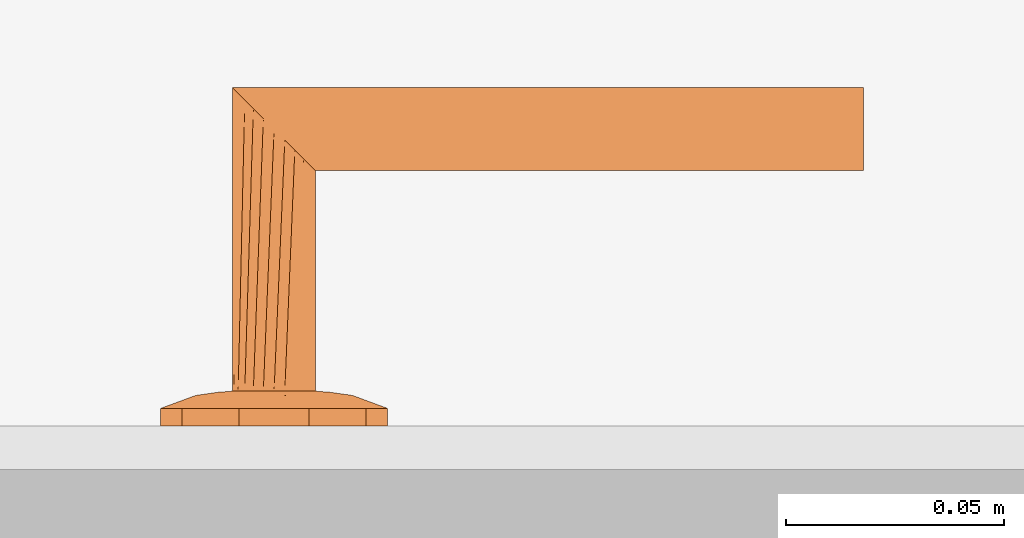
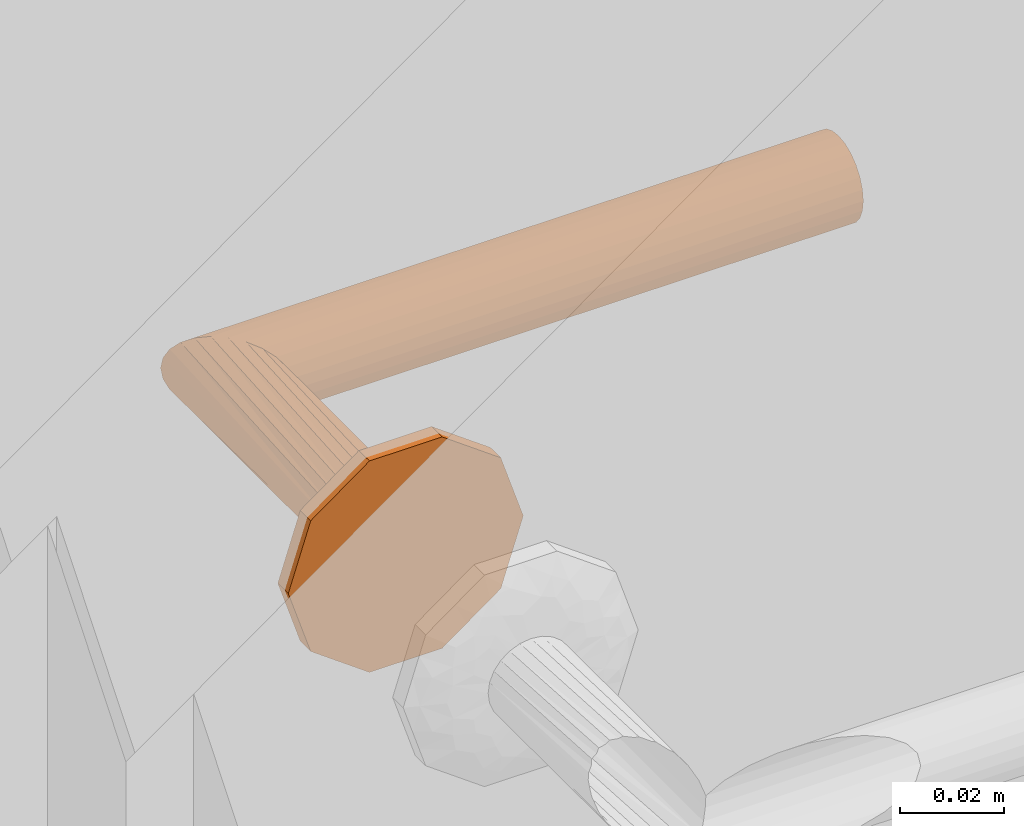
# One storey, part 31 of 42: 1 proxy.
"""IFC2X3 building model written with IfcOpenShell, lengths in millimetres."""

from ifc_helpers import new_model, entity, si_unit, converted_unit, direction, frame, origin, place, context, subcontext, project, spatial, faceted_brep, source, transform, mapped, material, type_object, type_shapes, element, save


model = new_model("IFC2X3")

# Units and contexts
model_context = context("Model", 3, precision=0.01, world=origin(), true_north=direction((6.123233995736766e-17, 1.0)))
plan_context = context("Plan", 3, precision=0.01, world=origin(), true_north=direction((6.123233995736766e-17, 1.0)))
body_context = subcontext(model_context, "Body", "Model", "MODEL_VIEW")
ifc_project = project(units=[si_unit("LENGTHUNIT", "METRE", prefix="MILLI"), converted_unit("PLANEANGLEUNIT", "DEGREE", entity("IfcPlaneAngleMeasure", 0.017453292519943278), si_unit("PLANEANGLEUNIT", "RADIAN"), dimensions=[0, 0, 0, 0, 0, 0, 0]), si_unit("AREAUNIT", "SQUARE_METRE")], contexts=[model_context, plan_context])

# Site, building, storey, space
site_placement = place(None, origin())
site = spatial("IfcSite", under=ifc_project, at=site_placement, Name="Default", CompositionType="ELEMENT")
building_placement = place(site_placement, origin())
building = spatial("IfcBuilding", under=site, at=building_placement, CompositionType="ELEMENT")
storey_placement = place(building_placement, frame((0.0, 0.0, 9465.000076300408)))
storey = spatial("IfcBuildingStorey", under=building, at=storey_placement, Name="4K", CompositionType="ELEMENT", Elevation=9465.000076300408)
space_placement = place(storey_placement, origin())
space = spatial("IfcSpace", under=storey, at=space_placement, Name="4-9.3", CompositionType="ELEMENT", InteriorOrExteriorSpace="INTERNAL")

# Proxy
ifc_material = material(Name="<Unnamed>")
building_element_proxy_type = type_object("IfcBuildingElementProxyType", Name="Door-handle_Lever_ABLOY_INOXI_3-19ss-002_RT:Default", PredefinedType="NOTDEFINED", material=ifc_material)
shared_shape = source(origin(), body_context, "Body", "Brep", [
    faceted_brep([(0.0, 0.0, 0.0), (21.034441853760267, -15.282416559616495, 0.0), (14.534441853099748, -20.00494299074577, 0.0), (8.034441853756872, -24.72746942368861, 0.0), (0.0, -24.72746942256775, 0.0), (23.51722092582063, -7.6412082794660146, 0.0), (26.0, 0.0, 0.0), (-8.034441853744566, -24.727469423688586, 0.0), (-14.534441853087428, -20.00494299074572, 0.0), (-21.03444185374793, -15.282416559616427, 0.0), (-23.517220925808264, -7.641208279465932, 0.0), (-26.0, 0.0, 0.0), (-23.517220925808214, 7.641208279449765, 0.0), (23.517220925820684, 7.641208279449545, 0.0), (21.034441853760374, 15.282416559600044, 0.0), (14.53444185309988, 20.00494299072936, 0.0), (8.034441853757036, 24.72746942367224, 0.0), (-21.034441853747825, 15.282416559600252, 0.0), (-14.53444185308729, 20.004942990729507, 0.0), (-8.0344418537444, 24.72746942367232, 0.0), (0.0, 24.72746942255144, 0.0), (0.0, 0.0, 8.0), (4.7500000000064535, -8.227241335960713, 8.0), (5.937500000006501, -6.170431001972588, 8.0), (7.125000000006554, -4.113620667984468, 8.0), (8.312500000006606, -2.0568103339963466, 8.0), (9.500000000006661, 0.0, 8.0), (8.312500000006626, 2.056810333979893, 8.0), (2.3750000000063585, -8.227241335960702, 8.0), (0.0, -8.227241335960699, 8.0), (-2.3749999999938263, -8.227241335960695, 8.0), (-4.749999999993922, -8.227241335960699, 8.0), (-5.937499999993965, -6.170431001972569, 8.0), (-7.124999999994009, -4.113620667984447, 8.0), (-8.312499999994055, -2.056810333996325, 8.0), (-9.499999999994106, 0.0, 8.0), (7.125000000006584, 4.113620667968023, 8.0), (5.937500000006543, 6.170431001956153, 8.0), (4.750000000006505, 8.227241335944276, 8.0), (2.3750000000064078, 8.22724133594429, 8.0), (-8.31249999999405, 2.0568103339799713, 8.0), (-7.12499999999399, 4.113620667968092, 8.0), (-5.9374999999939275, 6.170431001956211, 8.0), (-4.74999999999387, 8.227241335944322, 8.0), (0.0, 8.227241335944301, 8.0), (-2.374999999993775, 8.227241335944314, 8.0), (-22.488765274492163, -10.806469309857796, 4.030771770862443), (-16.663919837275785, -7.932665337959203, 6.877259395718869), (-20.643071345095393, -6.292822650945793, 5.929480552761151), (-12.50457926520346, -5.179566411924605, 7.774932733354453), (-16.764060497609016, -3.820257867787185, 7.1747985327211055), (-9.071726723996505, -10.311606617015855, 7.7520782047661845), (-11.963426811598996, -8.625290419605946, 7.618343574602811), (-11.979136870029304, -13.678312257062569, 6.945778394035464), (5.7585542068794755, -20.96753300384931, 5.871476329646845), (0.0, -24.72746942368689, 4.030771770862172), (8.03444185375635, -24.727469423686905, 4.030771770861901), (16.66391982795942, -7.932665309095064, 6.877259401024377), (22.488765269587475, -10.806469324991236, 4.03077177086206), (20.64307133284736, -6.29282258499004, 5.929480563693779), (14.534441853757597, -20.004942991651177, 4.030771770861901), (9.499431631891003, -18.64368355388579, 6.154325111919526), (-15.783149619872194, -11.991003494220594, 6.50080018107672), (-21.034441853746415, -15.282416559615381, 4.030771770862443), (-14.53444185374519, -20.00494299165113, 4.030771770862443), (-23.012042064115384, 0.0, 5.135401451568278), (-23.943088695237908, -6.330522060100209, 4.030771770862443), (11.96342678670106, -8.62529049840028, 7.618343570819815), (12.504579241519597, -5.179566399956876, 7.774932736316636), (16.764060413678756, -3.8202578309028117, 7.17479855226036), (15.783149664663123, -11.991003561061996, 6.50080015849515), (17.985351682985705, 0.0, 6.993737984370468), (23.012042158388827, 0.0, 5.135401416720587), (8.661516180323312, -10.478936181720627, 7.768126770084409), (-8.03444185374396, -24.727469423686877, 4.030771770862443), (-3.3573143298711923, -21.197247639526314, 5.971427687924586), (-9.941915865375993, -17.061976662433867, 6.522757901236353), (-5.973257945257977, -16.430139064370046, 7.110979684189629), (-7.711266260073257, -12.760344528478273, 7.594456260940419), (11.979136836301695, -13.678312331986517, 6.945778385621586), (7.511307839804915, -13.358932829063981, 7.529187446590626), (5.953298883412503, -16.50608604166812, 7.096344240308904), (-1.5654593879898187, -15.307443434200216, 7.519134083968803), (-7.784980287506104, -20.476295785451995, 5.812837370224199), (2.8135289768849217, -17.76392260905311, 6.993737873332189), (-17.98535168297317, 0.0, 6.993737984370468), (-26.0, 0.0, 4.030771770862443), (-23.51722092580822, -7.641208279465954, 4.030771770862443), (23.943088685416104, -6.33052209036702, 4.030771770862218), (24.308823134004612, -5.204907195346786, 4.030771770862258), (26.0, 0.0, 4.030771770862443), (21.03444185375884, -15.282416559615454, 4.030771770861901), (22.617646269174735, -10.40981439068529, 4.030771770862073), (22.488765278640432, 10.806469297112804, 4.030771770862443), (16.66391984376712, 7.932665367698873, 6.877259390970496), (20.643071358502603, 6.292822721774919, 5.929480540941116), (12.504579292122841, 5.179566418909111, 7.774932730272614), (16.764060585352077, 3.8202579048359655, 7.174798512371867), (9.07172672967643, 10.31160659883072, 7.752078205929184), (11.963426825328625, 8.62529034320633, 7.618343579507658), (11.979136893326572, 13.67831220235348, 6.9457784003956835), (-5.758554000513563, 20.96753314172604, 5.8714763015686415), (0.0, 24.72746942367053, 4.030771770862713), (-8.03444185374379, 24.72746942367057, 4.030771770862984), (-16.663919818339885, 7.932665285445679, 6.877259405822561), (-22.48876526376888, 10.806469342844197, 4.030771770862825), (-20.643071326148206, 6.2928225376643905, 5.929480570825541), (-14.534441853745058, 20.004942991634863, 4.030771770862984), (-9.499431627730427, 18.643683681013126, 6.154325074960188), (15.783149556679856, 11.991003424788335, 6.5008002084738), (21.03444185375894, 15.282416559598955, 4.030771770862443), (14.534441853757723, 20.004942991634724, 4.030771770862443), (23.943088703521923, 6.330522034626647, 4.030771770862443), (-11.96342675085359, 8.625290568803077, 7.618343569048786), (-12.504579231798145, 5.179566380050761, 7.77493273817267), (-16.764060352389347, 3.820257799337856, 7.174798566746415), (-15.78314967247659, 11.991003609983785, 6.500800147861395), (-8.661516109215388, 10.478936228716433, 7.768126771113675), (8.034441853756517, 24.727469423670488, 4.030771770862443), (3.3573144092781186, 21.197247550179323, 5.971427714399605), (9.941915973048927, 17.061976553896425, 6.522757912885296), (5.9732581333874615, 16.430139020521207, 7.110979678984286), (7.711266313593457, 12.760344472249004, 7.5944562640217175), (-11.979136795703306, 13.678312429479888, 6.945778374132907), (-7.511307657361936, 13.358932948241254, 7.5291874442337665), (-5.9532988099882, 16.50608628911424, 7.096344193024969), (1.5654596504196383, 15.3074431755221, 7.519134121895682), (7.784980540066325, 20.476295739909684, 5.812837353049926), (-2.81352881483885, 17.76392263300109, 6.993737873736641), (23.51722092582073, 7.6412082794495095, 4.030771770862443), (-23.94308867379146, 6.330522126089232, 4.030771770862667), (-24.308823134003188, 5.20490719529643, 4.030771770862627), (-21.034441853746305, 15.282416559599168, 4.030771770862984), (-22.617646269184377, 10.409814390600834, 4.0307717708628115)], [[[0, 1, 2]], [[0, 2, 3]], [[0, 3, 4]], [[0, 5, 1]], [[0, 6, 5]], [[0, 4, 7]], [[0, 7, 8]], [[0, 8, 9]], [[0, 9, 10]], [[0, 10, 11]], [[0, 11, 12]], [[0, 13, 6]], [[0, 14, 13]], [[0, 15, 14]], [[0, 16, 15]], [[0, 12, 17]], [[0, 17, 18]], [[0, 18, 19]], [[0, 19, 20]], [[0, 20, 16]], [[21, 22, 23]], [[21, 23, 24]], [[21, 24, 25]], [[21, 25, 26]], [[21, 26, 27]], [[21, 28, 22]], [[21, 29, 28]], [[21, 30, 29]], [[21, 31, 30]], [[21, 32, 31]], [[21, 33, 32]], [[21, 34, 33]], [[21, 35, 34]], [[21, 27, 36]], [[21, 36, 37]], [[21, 37, 38]], [[21, 38, 39]], [[21, 40, 35]], [[21, 41, 40]], [[21, 42, 41]], [[21, 43, 42]], [[21, 39, 44]], [[21, 44, 45]], [[21, 45, 43]], [[46, 47, 48]], [[47, 49, 50]], [[49, 33, 34]], [[51, 52, 53]], [[49, 52, 33]], [[48, 47, 50]], [[54, 55, 56]], [[57, 58, 59]], [[56, 60, 61]], [[62, 63, 64]], [[65, 66, 48]], [[67, 57, 68]], [[68, 69, 25]], [[57, 67, 70]], [[69, 26, 25]], [[62, 53, 52]], [[71, 69, 72]], [[67, 23, 73]], [[74, 55, 75]], [[76, 77, 78]], [[79, 60, 70]], [[69, 59, 72]], [[80, 81, 61]], [[77, 30, 78]], [[82, 30, 77]], [[28, 80, 22]], [[77, 83, 75]], [[75, 82, 77]], [[55, 84, 75]], [[85, 50, 35]], [[24, 68, 25]], [[82, 84, 29]], [[84, 82, 75]], [[31, 78, 30]], [[82, 29, 30]], [[34, 35, 50]], [[52, 49, 47]], [[62, 52, 47]], [[34, 50, 49]], [[53, 78, 51]], [[32, 33, 52]], [[85, 65, 50]], [[66, 65, 86]], [[67, 68, 24]], [[77, 76, 83]], [[65, 48, 50]], [[63, 62, 46]], [[48, 66, 87, 46]], [[62, 47, 46]], [[69, 68, 57]], [[80, 73, 22]], [[70, 67, 79]], [[67, 24, 23]], [[72, 88, 89, 90]], [[69, 71, 26]], [[59, 69, 57]], [[61, 60, 79]], [[62, 64, 53]], [[91, 58, 70]], [[72, 59, 88]], [[57, 70, 58]], [[59, 58, 92]], [[80, 61, 79]], [[91, 70, 60]], [[61, 81, 54]], [[73, 80, 79]], [[28, 84, 81]], [[67, 73, 79]], [[29, 84, 28]], [[22, 73, 23]], [[51, 31, 32]], [[76, 78, 53]], [[53, 64, 76]], [[83, 64, 74]], [[64, 83, 76]], [[75, 83, 74]], [[31, 51, 78]], [[52, 51, 32]], [[28, 81, 80]], [[54, 81, 84]], [[55, 54, 84]], [[61, 54, 56]], [[93, 94, 95]], [[94, 96, 97]], [[96, 36, 27]], [[98, 99, 100]], [[96, 99, 36]], [[95, 94, 97]], [[101, 102, 103]], [[104, 105, 106]], [[103, 107, 108]], [[109, 110, 111]], [[72, 112, 95]], [[113, 104, 114]], [[114, 115, 40]], [[104, 113, 116]], [[115, 35, 40]], [[109, 100, 99]], [[85, 115, 65]], [[113, 42, 117]], [[118, 102, 119]], [[120, 121, 122]], [[123, 107, 116]], [[115, 106, 65]], [[124, 125, 108]], [[121, 39, 122]], [[126, 39, 121]], [[45, 124, 43]], [[121, 127, 119]], [[119, 126, 121]], [[102, 128, 119]], [[71, 97, 26]], [[41, 114, 40]], [[126, 128, 44]], [[128, 126, 119]], [[38, 122, 39]], [[126, 44, 39]], [[27, 26, 97]], [[99, 96, 94]], [[109, 99, 94]], [[27, 97, 96]], [[100, 122, 98]], [[37, 36, 99]], [[71, 72, 97]], [[112, 72, 90]], [[113, 114, 41]], [[121, 120, 127]], [[72, 95, 97]], [[110, 109, 93]], [[95, 112, 129, 93]], [[109, 94, 93]], [[115, 114, 104]], [[124, 117, 43]], [[116, 113, 123]], [[113, 41, 42]], [[65, 130, 131, 86]], [[115, 85, 35]], [[106, 115, 104]], [[108, 107, 123]], [[109, 111, 100]], [[132, 105, 116]], [[65, 106, 130]], [[104, 116, 105]], [[106, 105, 133]], [[124, 108, 123]], [[132, 116, 107]], [[108, 125, 101]], [[117, 124, 123]], [[45, 128, 125]], [[113, 117, 123]], [[44, 128, 45]], [[43, 117, 42]], [[98, 38, 37]], [[120, 122, 100]], [[100, 111, 120]], [[127, 111, 118]], [[111, 127, 120]], [[119, 127, 118]], [[38, 98, 122]], [[99, 98, 37]], [[45, 125, 124]], [[101, 125, 128]], [[102, 101, 128]], [[108, 101, 103]], [[7, 74, 64, 63, 9, 8]], [[10, 9, 63, 46, 87, 66, 86, 11]], [[6, 90, 89, 88, 92, 1, 5]], [[1, 58, 91]], [[74, 7, 4, 3, 56, 55]], [[60, 56, 3, 2, 1, 91]], [[1, 92, 58]], [[14, 110, 93, 129, 112, 90, 6, 13]], [[111, 110, 14, 15, 16, 118]], [[11, 86, 131, 130, 133, 17, 12]], [[17, 105, 132]], [[118, 16, 20, 19, 103, 102]], [[107, 103, 19, 18, 17, 132]], [[17, 133, 105]], [[59, 92, 88]], [[106, 133, 130]]]),
    faceted_brep([(4.7499999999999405, -8.22724133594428, 8.0), (2.4587809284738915, -9.176295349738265, 8.0), (0.0, -9.499999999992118, 8.0), (-2.4587809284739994, -9.176295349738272, 8.0), (-4.7500000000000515, -8.227241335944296, 8.0), (-6.717514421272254, -6.717514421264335, 8.0), (-8.227241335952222, -4.74999999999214, 8.0), (-9.176295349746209, -2.4587809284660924, 8.0), (-9.500000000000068, 0.0, 8.0), (-9.176295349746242, 2.458780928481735, 8.0), (-8.227241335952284, 4.750000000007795, 8.0), (-6.717514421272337, 6.717514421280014, 8.0), (-4.750000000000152, 8.227241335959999, 8.0), (-2.4587809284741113, 9.176295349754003, 8.0), (0.0, 9.500000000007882, 8.0), (2.4587809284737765, 9.176295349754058, 8.0), (4.7499999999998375, 8.227241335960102, 8.0), (6.717514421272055, 6.717514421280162, 8.0), (8.22724133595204, 4.75000000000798, 8.0), (9.17629534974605, 2.458780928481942, 8.0), (9.499999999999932, 0.0, 8.0), (9.17629534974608, -2.458780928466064, 8.0), (8.227241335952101, -4.749999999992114, 8.0), (6.717514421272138, -6.7175144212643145, 8.0), (-8.227241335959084, 4.7499999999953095, 59.772758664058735), (-6.717514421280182, 6.7175144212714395, 61.282485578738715), (-9.176295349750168, 2.458780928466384, 58.82370465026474), (-4.750000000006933, 8.227241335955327, 63.25000000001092), (-2.4587809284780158, 9.176295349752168, 65.54121907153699), (-9.500000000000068, 0.0, 58.50000000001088), (0.0, 9.50000000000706, 68.0), (4.750000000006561, 8.227241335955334, 72.75000000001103), (2.4587809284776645, 9.17629534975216, 70.45878092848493), (6.717514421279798, 6.7175144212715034, 74.71751442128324), (8.22724133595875, 4.749999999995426, 76.22724133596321), (9.17629534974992, 2.458780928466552, 77.17629534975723), (9.499999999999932, 0.0, 77.50000000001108), (9.176295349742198, -2.4587809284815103, 77.1762953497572), (8.227241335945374, -4.750000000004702, 76.22724133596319), (6.7175144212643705, -6.717514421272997, 74.7175144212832), (4.749999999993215, -8.227241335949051, 72.75000000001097), (2.4587809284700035, -9.17629534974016, 70.45878092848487), (0.0, -9.49999999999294, 68.0), (-2.4587809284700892, -9.176295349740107, 65.54121907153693), (-4.749999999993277, -8.227241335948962, 63.250000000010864), (-6.717514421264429, -6.717514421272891, 61.282485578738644), (-9.176295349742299, -2.458780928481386, 58.8237046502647), (-8.227241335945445, -4.750000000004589, 59.77275866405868), (-135.0, -9.176295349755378, 70.4587809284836), (-135.0, -8.227241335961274, 72.75000000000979), (-135.0, -6.717514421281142, 74.71751442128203), (-135.0, -4.750000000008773, 76.22724133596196), (-135.0, -2.4587809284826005, 77.17629534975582), (-135.0, 0.0, 77.5000000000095), (-135.0, 2.4587809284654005, 77.17629534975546), (-135.0, 4.749999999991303, 76.22724133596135), (-135.0, 6.717514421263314, 74.71751442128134), (-135.0, 8.227241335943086, 72.75000000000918), (-135.0, 9.17629534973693, 70.45878092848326), (-135.0, 9.499999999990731, 68.0), (-135.0, 9.17629534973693, 65.54121907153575), (-135.0, 8.227241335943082, 63.250000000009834), (-135.0, 6.717514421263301, 61.28248557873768), (-135.0, 4.749999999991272, 59.772758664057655), (-135.0, 2.458780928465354, 58.823704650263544), (-135.0, 0.0, 58.50000000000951), (-135.0, -2.458780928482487, 58.82370465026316), (-135.0, -4.750000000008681, 59.772758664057), (-135.0, -6.7175144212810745, 61.28248557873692), (-135.0, -8.227241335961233, 63.25000000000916), (-135.0, -9.176295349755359, 65.54121907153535), (-135.0, -9.500000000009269, 68.0)], [[[0, 1, 2, 3, 4, 5, 6, 7, 8, 9, 10, 11, 12, 13, 14, 15, 16, 17, 18, 19, 20, 21, 22, 23]], [[24, 25, 11, 10]], [[26, 24, 10, 9]], [[14, 27, 28]], [[13, 27, 14]], [[25, 27, 13]], [[29, 26, 9, 8]], [[12, 11, 25]], [[25, 13, 12]], [[28, 30, 15]], [[31, 17, 32]], [[33, 18, 31]], [[19, 34, 35]], [[33, 34, 19]], [[20, 19, 35, 36]], [[16, 15, 30]], [[14, 28, 15]], [[19, 18, 33]], [[17, 31, 18]], [[17, 16, 32]], [[30, 32, 16]], [[20, 36, 37, 21]], [[38, 21, 37]], [[22, 39, 40]], [[38, 39, 21]], [[23, 40, 41]], [[39, 22, 21]], [[1, 42, 43]], [[42, 1, 0]], [[23, 41, 0]], [[23, 22, 40]], [[41, 42, 0]], [[44, 45, 3]], [[43, 44, 2]], [[46, 29, 8, 7]], [[47, 46, 7, 6]], [[45, 47, 6, 5]], [[45, 4, 3]], [[3, 2, 44]], [[5, 4, 45]], [[43, 2, 1]], [[48, 49, 50, 51, 52, 53, 54, 55, 56, 57, 58, 59, 60, 61, 62, 63, 64, 65, 66, 67, 68, 69, 70, 71]], [[64, 63, 24, 26]], [[65, 64, 26, 29]], [[61, 60, 28, 27]], [[62, 61, 27, 25]], [[63, 62, 25, 24]], [[59, 30, 28, 60]], [[57, 56, 33, 31]], [[58, 57, 31, 32]], [[54, 53, 36, 35]], [[55, 54, 35, 34]], [[56, 55, 34, 33]], [[32, 30, 59, 58]], [[52, 51, 38, 37]], [[53, 52, 37, 36]], [[49, 48, 41, 40]], [[50, 49, 40, 39]], [[51, 50, 39, 38]], [[42, 41, 48, 71]], [[69, 68, 45, 44]], [[70, 69, 44, 43]], [[66, 65, 29, 46]], [[67, 66, 46, 47]], [[68, 67, 47, 45]], [[42, 71, 70, 43]]]),
])
type_shapes(building_element_proxy_type, [shared_shape])
proxy_placement = place(space_placement, frame((7760.0, 10803.0, 1000.0), z_axis=(0.0, 1.0, 0.0), x_axis=(-1.0, 0.0, 0.0)))
element("IfcBuildingElementProxy", 1, at=proxy_placement, inside=space, type_object=building_element_proxy_type, material=ifc_material, Name="Door-handle_Lever_ABLOY_INOXI_3-19ss-002_RT:Default", ObjectType="Door-handle_Lever_ABLOY_INOXI_3-19ss-002_RT:Default", context=body_context, shape_type="MappedRepresentation", body=[
    mapped(shared_shape, transform((0.0, 0.0, 0.0), scale=1.0)),
])

save(model, "model.ifc")
